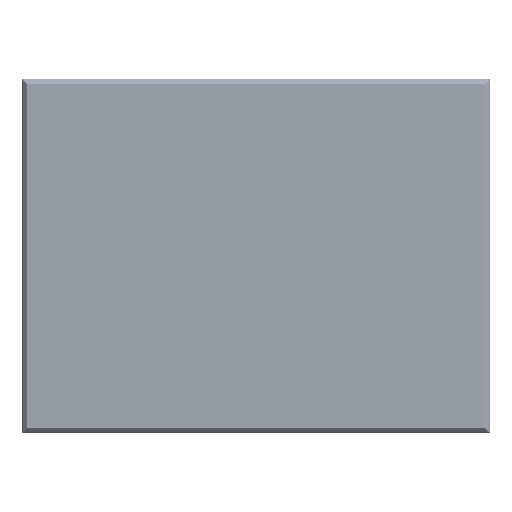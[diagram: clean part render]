
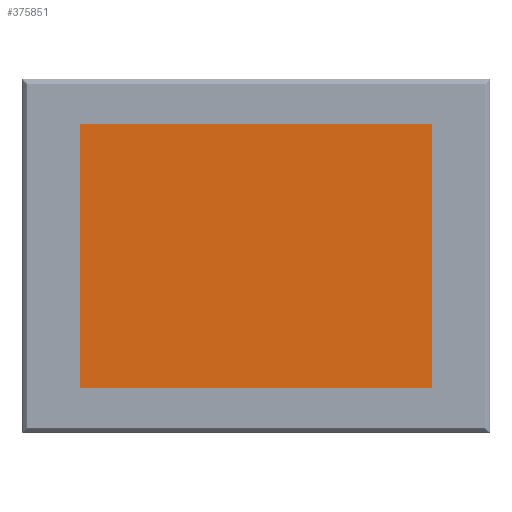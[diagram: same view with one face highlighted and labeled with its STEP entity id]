
A CAD part, top view. The second image highlights one B-rep face of the part: STEP entity #375851.
In plain terms, the highlighted planar face has unit normal (0, 0, 1).
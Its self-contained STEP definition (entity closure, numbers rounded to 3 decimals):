
#10211 = CARTESIAN_POINT ( 'NONE',  ( 123.75, 93., 0.138 ) ) ;
#12937 = DIRECTION ( 'NONE',  ( 0., -1., 0. ) ) ;
#27557 = CARTESIAN_POINT ( 'NONE',  ( 123.75, 93., 0.138 ) ) ;
#41591 = VECTOR ( 'NONE', #305846, 1000. ) ;
#44730 = EDGE_LOOP ( 'NONE', ( #371787, #250858, #265619, #124693 ) ) ;
#64990 = CARTESIAN_POINT ( 'NONE',  ( 123.75, -93., 0.138 ) ) ;
#67514 = VERTEX_POINT ( 'NONE', #64990 ) ;
#76496 = LINE ( 'NONE', #10211, #346440 ) ;
#79784 = CARTESIAN_POINT ( 'NONE',  ( 0., 0., 0.138 ) ) ;
#82835 = LINE ( 'NONE', #146992, #273586 ) ;
#104056 = CARTESIAN_POINT ( 'NONE',  ( -123.75, 93., 0.138 ) ) ;
#106704 = EDGE_CURVE ( 'NONE', #225022, #67514, #82835, .T. ) ;
#120960 = VECTOR ( 'NONE', #12937, 1000. ) ;
#124693 = ORIENTED_EDGE ( 'NONE', *, *, #106704, .T. ) ;
#146992 = CARTESIAN_POINT ( 'NONE',  ( -123.75, -93., 0.138 ) ) ;
#168320 = LINE ( 'NONE', #104056, #120960 ) ;
#169779 = CARTESIAN_POINT ( 'NONE',  ( -123.75, 93., 0.138 ) ) ;
#175027 = DIRECTION ( 'NONE',  ( 0., 0., 1. ) ) ;
#204032 = DIRECTION ( 'NONE',  ( 1., 0., 0. ) ) ;
#205915 = CARTESIAN_POINT ( 'NONE',  ( -123.75, -93., 0.138 ) ) ;
#225022 = VERTEX_POINT ( 'NONE', #205915 ) ;
#235864 = DIRECTION ( 'NONE',  ( -1., 0., 0. ) ) ;
#242948 = EDGE_CURVE ( 'NONE', #67514, #268769, #341032, .T. ) ;
#244995 = EDGE_CURVE ( 'NONE', #260083, #225022, #168320, .T. ) ;
#250858 = ORIENTED_EDGE ( 'NONE', *, *, #308051, .T. ) ;
#260083 = VERTEX_POINT ( 'NONE', #169779 ) ;
#265619 = ORIENTED_EDGE ( 'NONE', *, *, #244995, .T. ) ;
#268769 = VERTEX_POINT ( 'NONE', #27557 ) ;
#273586 = VECTOR ( 'NONE', #304392, 1000. ) ;
#283827 = AXIS2_PLACEMENT_3D ( 'NONE', #79784, #175027, #204032 ) ;
#304392 = DIRECTION ( 'NONE',  ( 1., 0., 0. ) ) ;
#305846 = DIRECTION ( 'NONE',  ( 0., 1., 0. ) ) ;
#308051 = EDGE_CURVE ( 'NONE', #268769, #260083, #76496, .T. ) ;
#341032 = LINE ( 'NONE', #363981, #41591 ) ;
#346440 = VECTOR ( 'NONE', #235864, 1000. ) ;
#363981 = CARTESIAN_POINT ( 'NONE',  ( 123.75, -93., 0.138 ) ) ;
#371787 = ORIENTED_EDGE ( 'NONE', *, *, #242948, .T. ) ;
#375851 = ADVANCED_FACE ( 'NONE', ( #394483 ), #390418, .T. ) ;
#390418 = PLANE ( 'NONE',  #283827 ) ;
#394483 = FACE_OUTER_BOUND ( 'NONE', #44730, .T. ) ;
